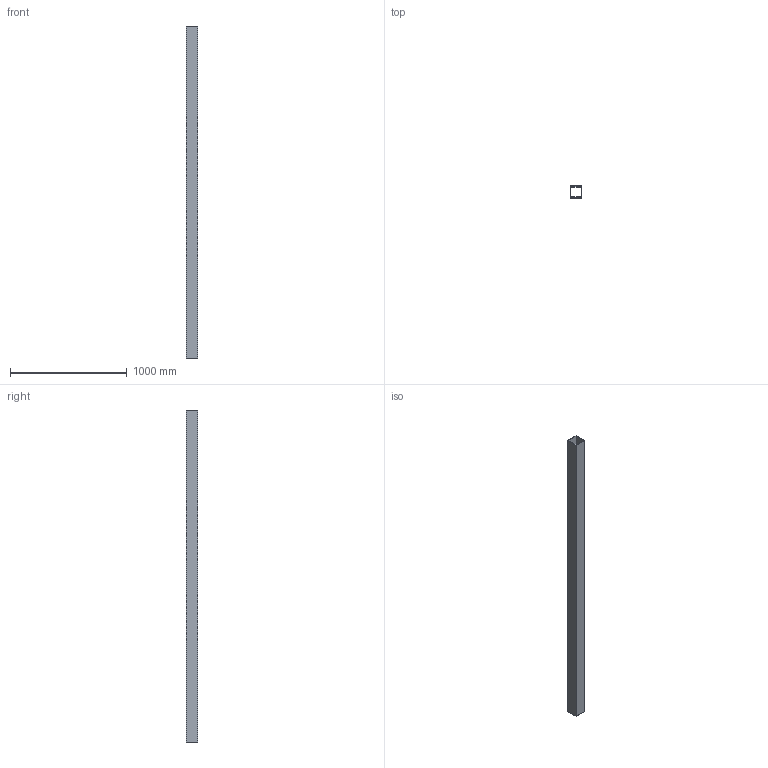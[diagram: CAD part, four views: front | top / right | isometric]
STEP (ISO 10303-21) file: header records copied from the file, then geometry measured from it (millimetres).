
FILE_DESCRIPTION(('Open CASCADE Model'),'2;1');
FILE_NAME('Open CASCADE Shape Model','2026-10-19T10:09:19',('Author'),( 'Open CASCADE'),'Open CASCADE STEP processor 8.0','Open CASCADE 8.0' ,'Unknown');
FILE_SCHEMA(('AUTOMOTIVE_DESIGN { 1 0 10303 214 1 1 1 1 }'));
Length unit declared in the file: millimetre
Products named in the file (1): SHS100x100x5_L2848000_P05 4
Bounding box: 100 x 100 x 2848 mm (x, y, z)
Volume: 5411200 mm3; surface area: 2168280 mm2
Topology: 1 solids, 1 shells, 10 faces, 24 edges, 16 vertices
Faces by surface type: plane 10
Entity records: 614 total; most frequent: CARTESIAN_POINT 99, DIRECTION 94, LINE 72, VECTOR 72, ORIENTED_EDGE 48, PCURVE 48, DEFINITIONAL_REPRESENTATION 48, EDGE_CURVE 24
